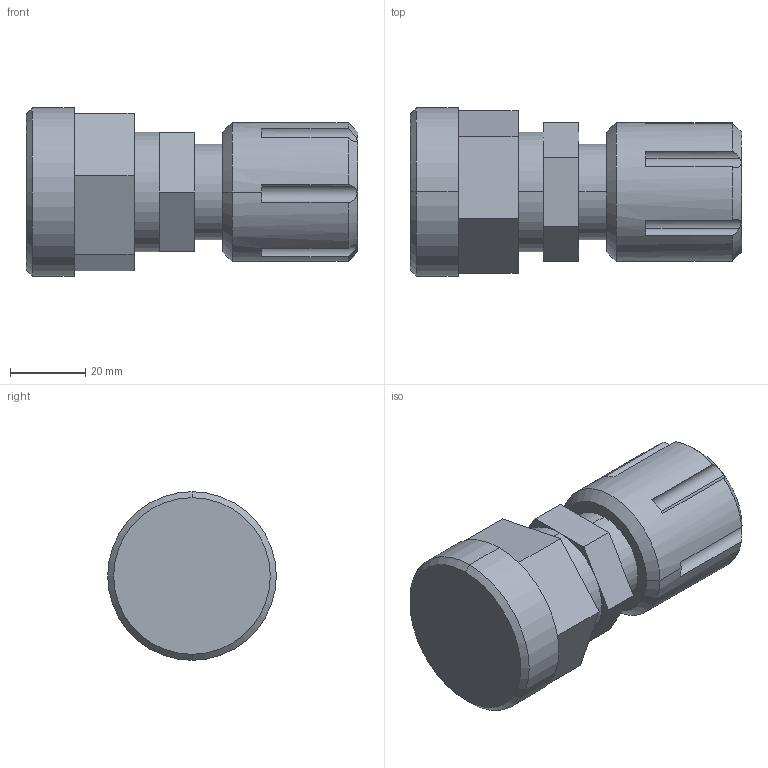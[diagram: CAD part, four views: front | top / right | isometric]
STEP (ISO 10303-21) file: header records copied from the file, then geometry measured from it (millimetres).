
FILE_DESCRIPTION (( 'STEP AP214' ), '1' );
FILE_NAME ('16-flaretek-with-top-mount-adapter.STEP', '2012-11-27T17:53:26', ( '' ), ( '' ), 'SwSTEP 2.0', 'SolidWorks 2012', '' );
FILE_SCHEMA (( 'AUTOMOTIVE_DESIGN' ));
Length unit declared in the file: inch
Products named in the file (1): 16-flaretek-with-top-mount-adapter
Bounding box: 87.86 x 44.7 x 44.7 mm (x, y, z)
Volume: 90185.8 mm3; surface area: 15227.3 mm2
Topology: 1 solids, 1 shells, 55 faces, 132 edges, 84 vertices
Faces by surface type: plane 31, cylinder 18, cone 6
Entity records: 2018 total; most frequent: CARTESIAN_POINT 436, DIRECTION 284, ORIENTED_EDGE 264, EDGE_CURVE 132, AXIS2_PLACEMENT_3D 106, VERTEX_POINT 84, LINE 72, VECTOR 72
